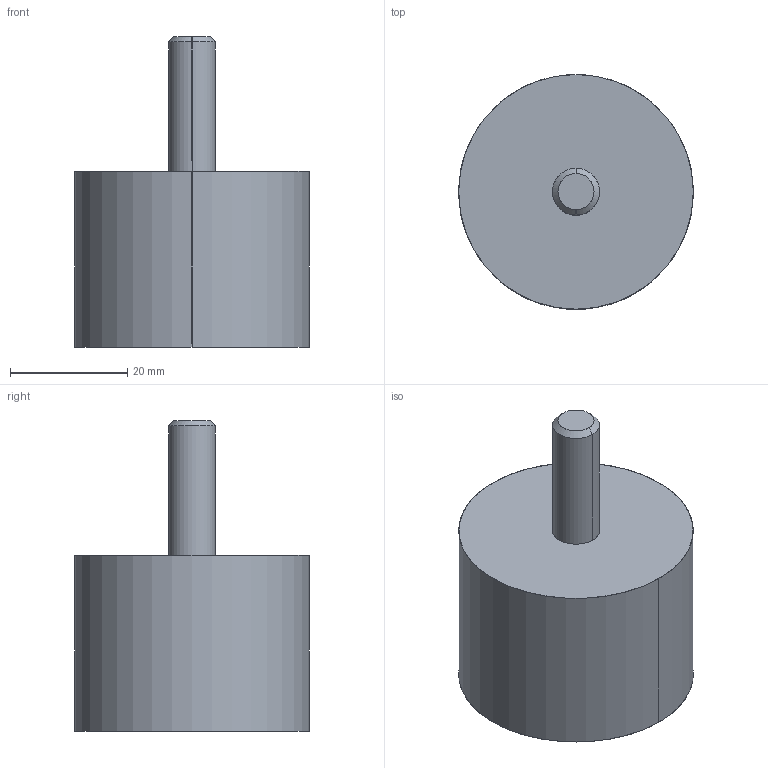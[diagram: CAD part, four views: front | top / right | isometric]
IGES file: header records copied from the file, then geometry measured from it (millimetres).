
Start section: SolidWorks IGES file using analytic representation for surfaces
Global section: file name: X:\11_SW2020-Inv2020\00_全2021-11新製品まで\v\VD4-4030M8\vd4-4030m8.IGS; native system: SolidWorks 2020; preprocessor: SolidWorks 2020; author: ImaoCorp; date: 211021.170344; units: millimetre
Bounding box: 40 x 40 x 53 mm (x, y, z)
Surface area: 6846.5 mm2 (no closed solid volume)
Topology: 0 solids, 0 shells, 9 faces, 216 edges, 216 vertices
Faces by surface type: revolution 6, bspline 3
